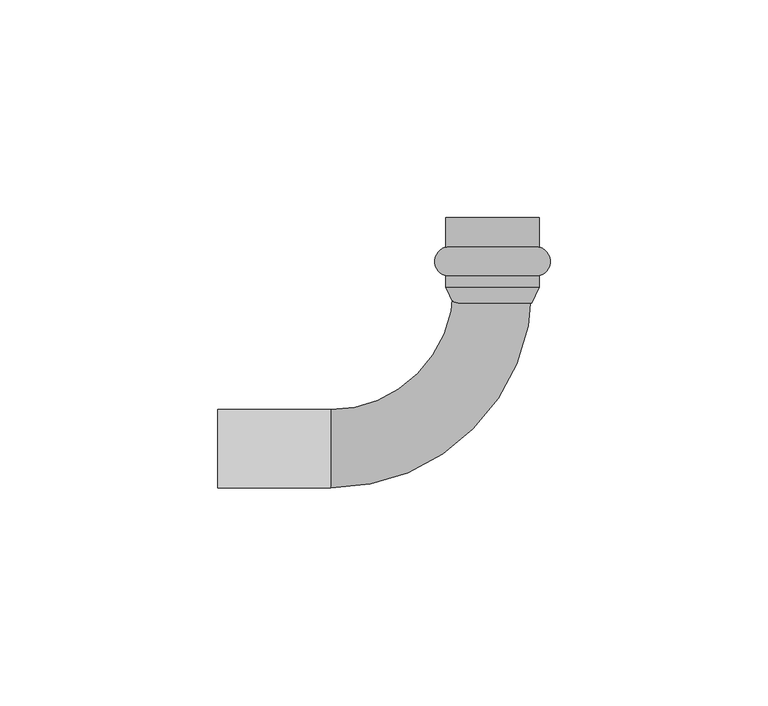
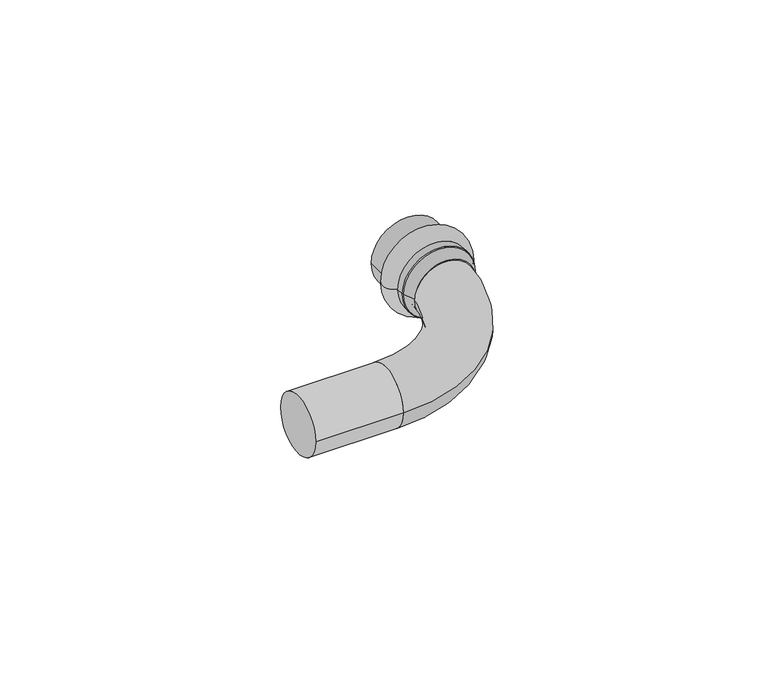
"""IFC4 building model written with IfcOpenShell, lengths in millimetres: pipe fitting geometry, VALTEC_VTi.950.I_Угольник 90° (раструб–труба) нержавеющая сталь : VTi.950.I."""

import ifcopenshell
import ifcopenshell.guid

model = None  # the IFC model being written
_history = None  # IfcOwnerHistory: only IFC2X3 demands one
_inside = {}  # id of a spatial element -> (the spatial element, [elements in it])
_under = {}  # id of a project, library or spatial element -> (it, [spatial elements below it])
_declared = {}  # id of a project -> (the project, [libraries it declares])
_typed = {}  # id of a type object -> (the type object, [elements of that type])
_made_of = {}  # id of a material, layer set ... -> (it, [elements and type objects made of it])


def new_model(schema):
    """Start an empty IFC model of exactly this schema.

    Asked for "IFC4X3", IfcOpenShell would pick the latest addendum, in which some entities
    have other attributes; the version numbers below select the first issue.
    IFC2X3 requires an IfcOwnerHistory on every rooted entity: one is made here for all.
    """
    global model, _history
    if schema == "IFC4X3":
        model = ifcopenshell.file(schema_version=(4, 3, 0, 0))
    else:
        model = ifcopenshell.file(schema=schema)
    _inside.clear()
    _under.clear()
    _declared.clear()
    _typed.clear()
    _made_of.clear()
    _history = None
    if model.schema == "IFC2X3":
        org = make("IfcOrganization", Name="unknown")
        user = make(
            "IfcPersonAndOrganization",
            ThePerson=make("IfcPerson", FamilyName="unknown"),
            TheOrganization=org,
        )
        app = make(
            "IfcApplication",
            ApplicationDeveloper=org,
            Version="unknown",
            ApplicationFullName="unknown",
            ApplicationIdentifier="unknown",
        )
        _history = make(
            "IfcOwnerHistory",
            OwningUser=user,
            OwningApplication=app,
            ChangeAction="ADDED",
            CreationDate=0,
        )
    return model


def make(cls, **values):
    """One entity of the class cls with the attributes given. An attribute that is None is left unset."""
    return model.create_entity(
        cls, **{name: value for name, value in values.items() if value is not None}
    )


def rooted(cls, **values):
    """An entity with a GlobalId (a new one), such as an element, a storey or a relation."""
    return make(cls, GlobalId=ifcopenshell.guid.new(), OwnerHistory=_history, **values)


def si_unit(unit_type, name, prefix=None):
    """IfcSIUnit, for example si_unit("LENGTHUNIT", "METRE", prefix="MILLI")."""
    return make("IfcSIUnit", UnitType=unit_type, Prefix=prefix, Name=name)


def assignment(units):
    """IfcUnitAssignment: the units of a project."""
    return None if units is None else make("IfcUnitAssignment", Units=units)


def point(xyz):
    """IfcCartesianPoint."""
    return None if xyz is None else make("IfcCartesianPoint", Coordinates=xyz)


def direction(xyz):
    """IfcDirection."""
    return None if xyz is None else make("IfcDirection", DirectionRatios=xyz)


def frame(location, z_axis=None, x_axis=None):
    """IfcAxis2Placement3D, a coordinate frame: its origin and axes. An axis left out is left unset."""
    return make(
        "IfcAxis2Placement3D",
        Location=point(location),
        Axis=direction(z_axis),
        RefDirection=direction(x_axis),
    )


def frame_2d(location, x_axis=None):
    """IfcAxis2Placement2D, a coordinate frame in the plane: its origin and x axis."""
    return make(
        "IfcAxis2Placement2D", Location=point(location), RefDirection=direction(x_axis)
    )


def origin():
    """The frame at (0, 0, 0) with its axes left unset."""
    return frame((0.0, 0.0, 0.0))


def origin_2d():
    """The frame at (0, 0) in the plane with its x axis left unset."""
    return frame_2d((0.0, 0.0))


def place(relative_to, where):
    """IfcLocalPlacement: puts the frame where relative to a parent placement (None: the world)."""
    return make(
        "IfcLocalPlacement", PlacementRelTo=relative_to, RelativePlacement=where
    )


def context(
    kind, dimensions, precision=None, world=None, true_north=None, identifier=None
):
    """IfcGeometricRepresentationContext, for example the 3D "Model" context."""
    return make(
        "IfcGeometricRepresentationContext",
        ContextIdentifier=identifier,
        ContextType=kind,
        CoordinateSpaceDimension=dimensions,
        Precision=precision,
        WorldCoordinateSystem=world,
        TrueNorth=true_north,
    )


def project(units=None, contexts=None):
    """IfcProject with its units and contexts."""
    return rooted(
        "IfcProject",
        Name="project",
        RepresentationContexts=contexts,
        UnitsInContext=assignment(units),
    )


def spatial(cls, under=None, at=None, **own):
    """A site, building, storey or space (cls), placed at a placement, below another one or the project."""
    s = rooted(cls, ObjectPlacement=at, **own)
    if under is not None:
        _under.setdefault(under.id(), (under, []))[1].append(s)
    return s


def polyline(points):
    """IfcPolyline through the points."""
    return make("IfcPolyline", Points=[point(p) for p in points])


def circle_curve(where, radius):
    """IfcCircle in the frame where."""
    return make("IfcCircle", Position=where, Radius=radius)


def ellipse_curve(where, semi_axis1, semi_axis2):
    """IfcEllipse in the frame where."""
    return make(
        "IfcEllipse", Position=where, SemiAxis1=semi_axis1, SemiAxis2=semi_axis2
    )


def trimmed(basis, trim1, trim2, sense, master):
    """IfcTrimmedCurve: the piece of a basis curve between two trims."""
    return make(
        "IfcTrimmedCurve",
        BasisCurve=basis,
        Trim1=trim1,
        Trim2=trim2,
        SenseAgreement=sense,
        MasterRepresentation=master,
    )


def segment(curve, same_sense, transition):
    """IfcCompositeCurveSegment."""
    return make(
        "IfcCompositeCurveSegment",
        Transition=transition,
        SameSense=same_sense,
        ParentCurve=curve,
    )


def composite_curve(segments, self_intersect=None):
    """IfcCompositeCurve: segments joined end to end."""
    return make("IfcCompositeCurve", Segments=segments, SelfIntersect=self_intersect)


def outline(outer, holes=None, kind="AREA"):
    """IfcArbitraryClosedProfileDef: a profile drawn as a closed curve; with holes, ...WithVoids."""
    if holes is None:
        return make("IfcArbitraryClosedProfileDef", ProfileType=kind, OuterCurve=outer)
    return make(
        "IfcArbitraryProfileDefWithVoids",
        ProfileType=kind,
        OuterCurve=outer,
        InnerCurves=holes,
    )


def extrude(swept, where, along, depth):
    """IfcExtrudedAreaSolid: the profile swept, set in the frame where, extruded along a direction by depth."""
    return make(
        "IfcExtrudedAreaSolid",
        SweptArea=swept,
        Position=where,
        ExtrudedDirection=direction(along),
        Depth=depth,
    )


def shape(context_of_items, identifier, shape_type, items):
    """IfcShapeRepresentation: the items that make up one representation, for example the "Body"."""
    return make(
        "IfcShapeRepresentation",
        ContextOfItems=context_of_items,
        RepresentationIdentifier=identifier,
        RepresentationType=shape_type,
        Items=items,
    )


def source(mapping_origin, context_of_items, identifier, shape_type, items):
    """IfcRepresentationMap: a shape defined once, which mapped items show again and again."""
    return make(
        "IfcRepresentationMap",
        MappingOrigin=mapping_origin,
        MappedRepresentation=shape(context_of_items, identifier, shape_type, items),
    )


def transform(
    local_origin,
    x_axis=None,
    y_axis=None,
    z_axis=None,
    scale=None,
    scale2=None,
    scale3=None,
    uniform=True,
):
    """IfcCartesianTransformationOperator3D, or its non-uniform kind. x_axis, y_axis, z_axis: its Axis1, 2, 3."""
    if uniform:
        return make(
            "IfcCartesianTransformationOperator3D",
            Axis1=direction(x_axis),
            Axis2=direction(y_axis),
            LocalOrigin=point(local_origin),
            Scale=scale,
            Axis3=direction(z_axis),
        )
    return make(
        "IfcCartesianTransformationOperator3DnonUniform",
        Axis1=direction(x_axis),
        Axis2=direction(y_axis),
        LocalOrigin=point(local_origin),
        Scale=scale,
        Axis3=direction(z_axis),
        Scale2=scale2,
        Scale3=scale3,
    )


def mapped(mapping_source, mapping_target):
    """IfcMappedItem: shows the shape of a source again, moved by a transform."""
    return make(
        "IfcMappedItem", MappingSource=mapping_source, MappingTarget=mapping_target
    )


def made_of(thing, what):
    """Note that an element or type object is made of a material, layer set ...; save() writes the relation."""
    if what is not None:
        _made_of.setdefault(what.id(), (what, []))[1].append(thing)
    return thing


def element(
    cls,
    number,
    at=None,
    inside=None,
    cuts=None,
    type_object=None,
    material=None,
    context=None,
    identifier="Body",
    shape_type=None,
    held_by="IfcProductDefinitionShape",
    body=None,
    shapes=None,
    **own,
):
    """One element of the class cls, such as IfcWall. Its Tag is "e" and its number.

    at: its placement. inside: the storey or other place that contains it. cuts: it is an
    opening in that element (IfcRelVoidsElement). A single representation is given by context,
    identifier, shape_type and body (its items); several are given by shapes. held_by: the class
    of the entity that holds the representations. save() writes the other relations.
    """
    e = rooted(cls, Tag="e%d" % number, ObjectPlacement=at, **own)
    if body is not None:
        shapes = [shape(context, identifier, shape_type, body)]
    if shapes is not None:
        e.Representation = make(held_by, Representations=shapes)
    if inside is not None:
        _inside.setdefault(inside.id(), (inside, []))[1].append(e)
    if cuts is not None:
        rooted(
            "IfcRelVoidsElement", RelatingBuildingElement=cuts, RelatedOpeningElement=e
        )
    if type_object is not None:
        _typed.setdefault(type_object.id(), (type_object, []))[1].append(e)
    return made_of(e, material)


def aggregate(whole, parts):
    """IfcRelAggregates: a whole, such as a stair, and the parts it consists of."""
    return rooted("IfcRelAggregates", RelatingObject=whole, RelatedObjects=parts)


def save(model, path):
    """Write the relations noted so far, then the file.

    IfcRelAggregates (storeys below a building ...), IfcRelContainedInSpatialStructure (elements
    in a storey), IfcRelDefinesByType, IfcRelAssociatesMaterial and IfcRelDeclares: one each for
    every whole, place, type object, material and project.
    """
    for whole, parts in _under.values():
        aggregate(whole, parts)
    for where, things in _inside.values():
        rooted(
            "IfcRelContainedInSpatialStructure",
            RelatedElements=things,
            RelatingStructure=where,
        )
    for kind, things in _typed.values():
        rooted("IfcRelDefinesByType", RelatedObjects=things, RelatingType=kind)
    for what, things in _made_of.values():
        rooted("IfcRelAssociatesMaterial", RelatedObjects=things, RelatingMaterial=what)
    for by, libraries in _declared.values():
        rooted("IfcRelDeclares", RelatingContext=by, RelatedDefinitions=libraries)
    model.write(path)


def plane_surface(at):
    """IfcPlane: the flat surface through the origin of the frame at, square to its z axis."""
    return make("IfcPlane", Position=at)


def cylinder_surface(at, radius):
    """IfcCylindricalSurface: all points at the distance radius from the z axis of the frame at."""
    return make("IfcCylindricalSurface", Position=at, Radius=radius)


def revolved_surface(curve, axis_point, axis_direction):
    """IfcSurfaceOfRevolution: the curve turned about the line through axis_point along axis_direction."""
    return make(
        "IfcSurfaceOfRevolution",
        SweptCurve=make("IfcArbitraryOpenProfileDef", ProfileType="CURVE", Curve=curve),
        AxisPosition=make("IfcAxis1Placement", Location=point(axis_point), Axis=direction(axis_direction)),
    )


def advanced_brep(points, edges, surfaces, faces):
    """IfcAdvancedBrep: a solid bounded by faces that lie on surfaces and meet in shared edges.

    An edge is (start, end): straight between two places in points (the first is 0);
    or (start, end, curve); or (start, end, curve, False) where it runs against its curve.
    A face is (place in surfaces, loops), or (place, loops, False) where it looks against
    its surface's normal. A loop lists edges by number (the first is 1), with a minus sign
    where the edge is run from its end to its start. The first loop is the outer one.
    """
    corners = [point(p) for p in points]
    vertices = [make("IfcVertexPoint", VertexGeometry=c) for c in corners]
    made = []
    for start, end, *more in edges:
        made.append(
            make(
                "IfcEdgeCurve",
                EdgeStart=vertices[start],
                EdgeEnd=vertices[end],
                EdgeGeometry=more[0] if more else make("IfcPolyline", Points=[corners[start], corners[end]]),
                SameSense=more[1] if len(more) > 1 else True,
            )
        )
    hull = []
    for where, loops, *sense in faces:
        bounds = []
        for j, loop in enumerate(loops):
            ring = [make("IfcOrientedEdge", EdgeElement=made[abs(k) - 1], Orientation=k > 0) for k in loop]
            bounds.append(
                make(
                    "IfcFaceOuterBound" if j == 0 else "IfcFaceBound",
                    Bound=make("IfcEdgeLoop", EdgeList=ring),
                    Orientation=True,
                )
            )
        hull.append(make("IfcAdvancedFace", Bounds=bounds, FaceSurface=surfaces[where], SameSense=sense[0] if sense else True))
    return make("IfcAdvancedBrep", Outer=make("IfcClosedShell", CfsFaces=hull))


def pipe_fitting_a7a2a46d(model_context):
    return source(origin(), model_context, "Body", "SolidModel", [
        advanced_brep(
        [(-10.75, 46.2287193, 0.0), (10.75, 46.2287193, 0.0), (10.75, 39.6712807, 0.0), (-10.75, 39.6712807, 0.0), (-10.75, 53.0, 0.0), (10.75, 53.0, 0.0), (-9.0, 53.0, 0.0), (9.0, 53.0, 0.0), (-9.0, 37.1, 0.0), (9.0, 37.1, 0.0), (-10.75, 37.1, 0.0), (10.75, 37.1, 0.0)],
        [
            (0, 1, circle_curve(frame((0.0, 46.2287193, 0.0), z_axis=(0.0, -1.0, 0.0), x_axis=(1.0, 0.0, 0.0)), 10.75)),
            (1, 2, circle_curve(frame((9.85, 42.95, 0.0), z_axis=(0.0, 0.0, -1.0), x_axis=(0.0, -1.0, 0.0)), 3.4)),
            (2, 3, circle_curve(frame((0.0, 39.6712807, 0.0), z_axis=(0.0, 1.0, 0.0), x_axis=(1.0, 0.0, 0.0)), 10.75)),
            (3, 0, circle_curve(frame((-9.85, 42.95, 0.0), z_axis=(0.0, 0.0, -1.0), x_axis=(0.0, -1.0, 0.0)), 3.4)),
            (1, 0, circle_curve(frame((0.0, 46.2287193, 0.0), z_axis=(0.0, -1.0, 0.0), x_axis=(1.0, 0.0, 0.0)), 10.75)),
            (3, 2, circle_curve(frame((0.0, 39.6712807, 0.0), z_axis=(0.0, 1.0, 0.0), x_axis=(1.0, 0.0, 0.0)), 10.75)),
            (4, 5, circle_curve(frame((0.0, 53.0, 0.0), z_axis=(0.0, -1.0, 0.0), x_axis=(1.0, 0.0, 0.0)), 10.75)),
            (5, 1),
            (0, 4),
            (5, 4, circle_curve(frame((0.0, 53.0, 0.0), z_axis=(0.0, -1.0, 0.0), x_axis=(1.0, 0.0, 0.0)), 10.75)),
            (6, 7, circle_curve(frame((0.0, 53.0, 0.0), z_axis=(0.0, -1.0, 0.0), x_axis=(1.0, 0.0, 0.0)), 9.0)),
            (7, 5),
            (4, 6),
            (7, 6, circle_curve(frame((0.0, 53.0, 0.0), z_axis=(0.0, -1.0, 0.0), x_axis=(1.0, 0.0, 0.0)), 9.0)),
            (8, 9, circle_curve(frame((0.0, 37.1, 0.0), z_axis=(0.0, -1.0, 0.0), x_axis=(1.0, 0.0, 0.0)), 9.0)),
            (9, 7),
            (6, 8),
            (9, 8, circle_curve(frame((0.0, 37.1, 0.0), z_axis=(0.0, -1.0, 0.0), x_axis=(1.0, 0.0, 0.0)), 9.0)),
            (10, 11, circle_curve(frame((0.0, 37.1, 0.0), z_axis=(0.0, -1.0, 0.0), x_axis=(1.0, 0.0, 0.0)), 10.75)),
            (11, 9),
            (8, 10),
            (11, 10, circle_curve(frame((0.0, 37.1, 0.0), z_axis=(0.0, -1.0, 0.0), x_axis=(1.0, 0.0, 0.0)), 10.75)),
            (2, 11),
            (10, 3),
        ],
        [
            revolved_surface(trimmed(ellipse_curve(frame((9.85, 42.95, 0.0), z_axis=(0.0, 0.0, 1.0), x_axis=(0.0, -1.0, 0.0)), 3.4, 3.4), [point((10.75, 39.6712807, 0.0))], [point((10.75, 46.2287193, 0.0))], True, "CARTESIAN"), (0.0, 56.5364426, 0.0), (0.0, 1.0, 0.0)),
            cylinder_surface(frame((0.0, 56.5364426, 0.0), z_axis=(0.0, 1.0, 0.0), x_axis=(1.0, 0.0, 0.0)), 10.75),
            plane_surface(frame((0.0, 53.0, 0.0), z_axis=(0.0, 1.0, 0.0), x_axis=(1.0, 0.0, 0.0))),
            revolved_surface(polyline([(9.0, 53.0, 0.0), (9.0, 37.1, 0.0)]), (0.0, 56.5364426, 0.0), (0.0, 1.0, 0.0)),
            plane_surface(frame((0.0, 37.1, 0.0), z_axis=(0.0, -1.0, 0.0), x_axis=(1.0, 0.0, 0.0))),
        ],
        [
            (0, [[1, 2, 3, 4]]),
            (0, [[5, -4, 6, -2]]),
            (1, [[7, 8, -1, 9]]),
            (1, [[10, -9, -5, -8]]),
            (2, [[11, 12, -7, 13]]),
            (2, [[14, -13, -10, -12]]),
            (3, [[15, 16, -11, 17]]),
            (3, [[18, -17, -14, -16]]),
            (4, [[19, 20, -15, 21]]),
            (4, [[22, -21, -18, -20]]),
            (1, [[-3, 23, -19, 24]]),
            (1, [[-6, -24, -22, -23]]),
        ],
    ),
        extrude(outline(composite_curve([segment(trimmed(circle_curve(origin_2d(), 9.0), [point((-9.0, 0.0))], [point((9.0, 0.0))], False, "CARTESIAN"), True, "CONTINUOUS"), segment(trimmed(circle_curve(origin_2d(), 9.0), [point((9.0, 0.0))], [point((-9.0, 0.0))], False, "CARTESIAN"), True, "CONTINUOUS")], self_intersect=False)), frame((-63.0, 0.0, 0.0), z_axis=(1.0, 0.0, 0.0), x_axis=(0.0, 1.0, 0.0)), (0.0, 0.0, 1.0), 25.9),
        advanced_brep(
        [(-10.75, 37.1, 0.0), (10.75, 37.1, 0.0), (-9.0, 33.39, 0.0), (9.0, 33.39, 0.0)],
        [
            (0, 1, circle_curve(frame((0.0, 37.1, 0.0), z_axis=(0.0, 1.0, 0.0), x_axis=(-1.0, 0.0, 0.0)), 10.75)),
            (1, 0, circle_curve(frame((0.0, 37.1, 0.0), z_axis=(0.0, 1.0, 0.0), x_axis=(1.0, 0.0, 0.0)), 10.75)),
            (2, 3, circle_curve(frame((0.0, 33.39, 0.0), z_axis=(0.0, -1.0, 0.0), x_axis=(1.0, 0.0, 0.0)), 9.0)),
            (3, 2, circle_curve(frame((0.0, 33.39, 0.0), z_axis=(0.0, -1.0, 0.0), x_axis=(-1.0, 0.0, 0.0)), 9.0)),
            (2, 0),
            (1, 3),
        ],
        [
            plane_surface(frame((0.0, 37.1, 0.0), z_axis=(0.0, 1.0, 0.0), x_axis=(0.0, 0.0, -1.0))),
            plane_surface(frame((0.0, 33.39, 0.0), z_axis=(0.0, -1.0, 0.0), x_axis=(0.0, 0.0, -1.0))),
            revolved_surface(polyline([(-9.0, 33.39, 0.0), (-10.75, 37.1, 0.0)]), (0.0, 14.31, 0.0), (0.0, 1.0, 0.0)),
            revolved_surface(polyline([(9.0, 33.39, 0.0), (10.75, 37.1, 0.0)]), (0.0, 14.31, 0.0), (0.0, 1.0, 0.0)),
        ],
        [
            (0, [[1, 2]]),
            (1, [[3, 4]]),
            (2, [[-3, 5, -2, 6]]),
            (3, [[-4, -6, -1, -5]]),
        ],
    ),
        advanced_brep(
        [(-37.1, -9.0551605, 0.0), (-37.1, 8.9448395, 0.0), (9.0551605, 37.1, 0.0), (-8.9448395, 37.1, 0.0)],
        [
            (0, 1, circle_curve(frame((-37.1, -0.0551605, 0.0), z_axis=(-1.0, 0.0, 0.0), x_axis=(0.0, 1.0, 0.0)), 9.0)),
            (1, 0, circle_curve(frame((-37.1, -0.0551605, 0.0), z_axis=(-1.0, 0.0, 0.0), x_axis=(0.0, 1.0, 0.0)), 9.0)),
            (2, 3, circle_curve(frame((0.0551605, 37.1, 0.0), z_axis=(0.0, 1.0, 0.0), x_axis=(-1.0, 0.0, 0.0)), 9.0)),
            (3, 2, circle_curve(frame((0.0551605, 37.1, 0.0), z_axis=(0.0, 1.0, 0.0), x_axis=(-1.0, 0.0, 0.0)), 9.0)),
            (3, 1, circle_curve(frame((-37.1, 37.1, 0.0), z_axis=(0.0, 0.0, -1.0), x_axis=(0.0, -1.0, 0.0)), 28.1551605)),
            (0, 2, circle_curve(frame((-37.1, 37.1, 0.0), z_axis=(0.0, 0.0, 1.0), x_axis=(0.0, -1.0, 0.0)), 46.1551605)),
        ],
        [
            plane_surface(frame((-37.1, 0.0, 0.0), z_axis=(-1.0, 0.0, 0.0), x_axis=(0.0, 0.0, 1.0))),
            plane_surface(frame((0.0, 37.1, 0.0), z_axis=(0.0, 1.0, 0.0), x_axis=(0.0, 0.0, 1.0))),
            revolved_surface(trimmed(ellipse_curve(frame((-37.1, -0.0551605, 0.0), z_axis=(-1.0, 0.0, 0.0), x_axis=(0.0, 1.0, 0.0)), 9.0, 9.0), [point((-37.1, -9.0551605, 0.0))], [point((-37.1, 8.9448395, 0.0))], True, "CARTESIAN"), (-37.1, 37.1, 0.0), (0.0, 0.0, 1.0)),
            revolved_surface(trimmed(ellipse_curve(frame((-37.1, -0.0551605, 0.0), z_axis=(-1.0, 0.0, 0.0), x_axis=(0.0, 1.0, 0.0)), 9.0, 9.0), [point((-37.1, 8.9448395, 0.0))], [point((-37.1, -9.0551605, 0.0))], True, "CARTESIAN"), (-37.1, 37.1, 0.0), (0.0, 0.0, 1.0)),
        ],
        [
            (0, [[1, 2]]),
            (1, [[3, 4]]),
            (2, [[5, -1, 6, -4]]),
            (3, [[-6, -2, -5, -3]]),
        ],
    ),
    ])


if __name__ == "__main__":
    model = new_model("IFC4")
    model_context = context("Model", 3, world=origin())
    ifc_project = project(units=[si_unit("LENGTHUNIT", "METRE", prefix="MILLI")], contexts=[model_context])
    site = spatial("IfcSite", under=ifc_project)
    building = spatial("IfcBuilding", under=site)
    placement = place(None, origin())
    pipe_fitting_shape = pipe_fitting_a7a2a46d(model_context)
    element("IfcPipeFitting", 1, ObjectType="VALTEC_VTi.950.I_Угольник 90° (раструб–труба) нержавеющая сталь : VTi.950.I", at=placement, inside=building, context=model_context, shape_type="MappedRepresentation", body=[
        mapped(pipe_fitting_shape, transform((0.0, 0.0, 0.0), x_axis=(1.0, 0.0, 0.0), y_axis=(0.0, 1.0, 0.0), z_axis=(0.0, 0.0, 1.0))),
    ])
    save(model, "model.ifc")
